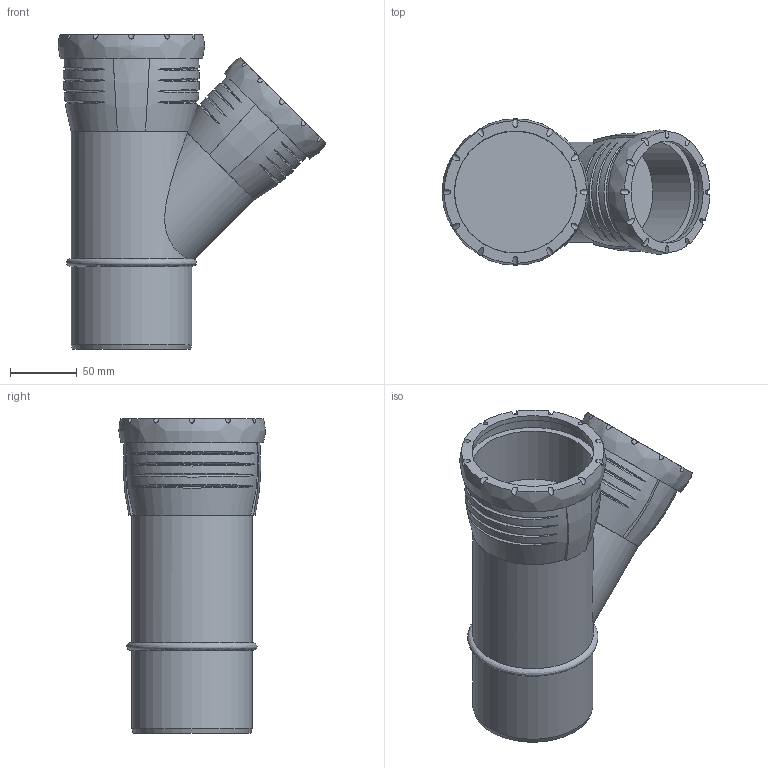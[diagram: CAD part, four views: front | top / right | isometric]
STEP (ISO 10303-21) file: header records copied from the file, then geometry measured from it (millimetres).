
FILE_DESCRIPTION(/* description */ (''),/* implementation_level */ '2;1');
FILE_NAME(/* name */ 'H:\Geberit-Teile\Export\Abzweig PP\stp\393433.stp',/* time_stamp */ '2017-02-13T13:17:22+01:00',/* author */ ('seihe2'),/* organization */ (''),/* preprocessor_version */ 'ST-DEVELOPER v15.2',/* originating_system */ 'Autodesk Inventor 2014',/* authorisation */ '');
FILE_SCHEMA (('AUTOMOTIVE_DESIGN { 1 0 10303 214 3 1 1 }'));
Length unit declared in the file: millimetre
Products named in the file (1): 393433
Bounding box: 200.12 x 109.47 x 235.5 mm (x, y, z)
Volume: 1302967.8 mm3; surface area: 201308.1 mm2
Topology: 5 solids, 5 shells, 107 faces, 247 edges, 174 vertices
Faces by surface type: bspline 47, cylinder 40, plane 19, cone 1
Full cylindrical faces by diameter (mm): 58.903 x1, 74.497 x1, 75.9 x1, 76.2 x1, 81.6 x1, 85 x1, 90.2 x3, 90.9 x1, 91.2 x1, 100.2 x1
Entity records: 7720 total; most frequent: CARTESIAN_POINT 5511, ORIENTED_EDGE 464, DIRECTION 330, EDGE_CURVE 231, VERTEX_POINT 171, AXIS2_PLACEMENT_3D 165, EDGE_LOOP 148, B_SPLINE_CURVE_WITH_KNOTS 125
